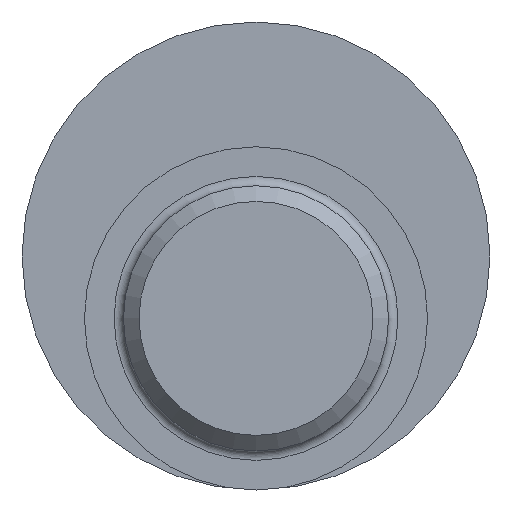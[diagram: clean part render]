
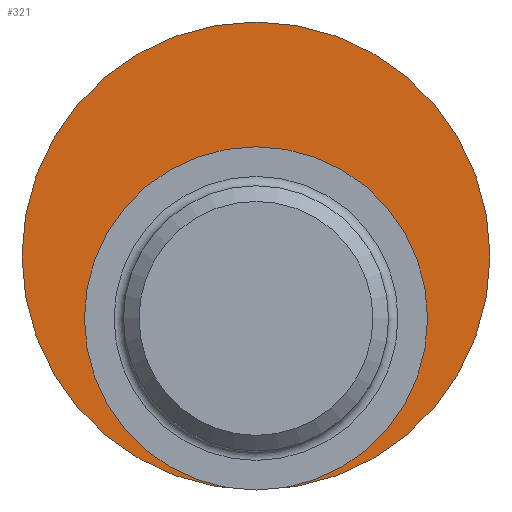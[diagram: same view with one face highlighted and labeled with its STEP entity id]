
A CAD part, left-side view. The second image highlights one B-rep face of the part: STEP entity #321.
In plain terms, the highlighted planar face has unit normal (-1, 0, 0).
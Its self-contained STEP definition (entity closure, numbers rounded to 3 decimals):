
#44=PLANE($,#370);
#94=FACE_OUTER_BOUND($,#135,.T.);
#135=EDGE_LOOP($,(#286,#287));
#162=CIRCLE($,#371,15.);
#163=CIRCLE($,#372,11.);
#191=VERTEX_POINT($,#601);
#224=EDGE_CURVE($,#191,#191,#162,.T.);
#225=EDGE_CURVE($,#191,#191,#163,.T.);
#286=ORIENTED_EDGE($,*,*,#224,.F.);
#287=ORIENTED_EDGE($,*,*,#225,.F.);
#321=ADVANCED_FACE($,(#94),#44,.F.);
#370=AXIS2_PLACEMENT_3D($,#600,#470,#471);
#371=AXIS2_PLACEMENT_3D($,#602,#472,#473);
#372=AXIS2_PLACEMENT_3D($,#603,#474,#475);
#470=DIRECTION('center_axis',(1.,0.,0.));
#471=DIRECTION('ref_axis',(0.,0.,-1.));
#472=DIRECTION('center_axis',(1.,0.,0.));
#473=DIRECTION('ref_axis',(0.,0.,-1.));
#474=DIRECTION('center_axis',(-1.,0.,0.));
#475=DIRECTION('ref_axis',(0.,0.,1.));
#600=CARTESIAN_POINT('Origin',(-30.,0.,4.));
#601=CARTESIAN_POINT('',(-30.,0.,-11.));
#602=CARTESIAN_POINT('Origin',(-30.,0.,4.));
#603=CARTESIAN_POINT('Origin',(-30.,0.,0.));
